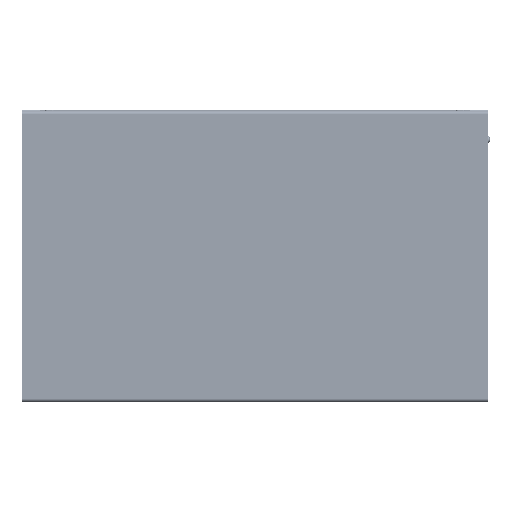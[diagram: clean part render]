
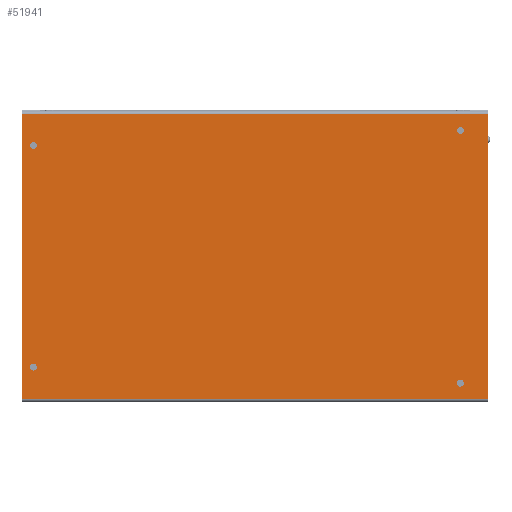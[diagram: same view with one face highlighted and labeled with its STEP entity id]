
A CAD part, front view. The second image highlights one B-rep face of the part: STEP entity #51941.
In plain terms, the highlighted planar face has unit normal (0, -1, 0).
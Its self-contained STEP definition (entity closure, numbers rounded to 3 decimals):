
#209 = DIRECTION ( 'NONE',  ( 0., 1., 0. ) ) ;
#2905 = CARTESIAN_POINT ( 'NONE',  ( -48.3, -20., 98.1 ) ) ;
#7911 = CIRCLE ( 'NONE', #221972, 1.5 ) ;
#9068 = ORIENTED_EDGE ( 'NONE', *, *, #24375, .T. ) ;
#9507 = VERTEX_POINT ( 'NONE', #85983 ) ;
#10855 = DIRECTION ( 'NONE',  ( 1., 0., 0. ) ) ;
#11573 = ORIENTED_EDGE ( 'NONE', *, *, #73715, .F. ) ;
#11654 = ORIENTED_EDGE ( 'NONE', *, *, #111491, .T. ) ;
#12033 = EDGE_CURVE ( 'NONE', #76956, #180942, #169289, .T. ) ;
#13409 = FACE_OUTER_BOUND ( 'NONE', #170630, .T. ) ;
#17635 = VERTEX_POINT ( 'NONE', #71292 ) ;
#22393 = CARTESIAN_POINT ( 'NONE',  ( -48.3, -20., 95.1 ) ) ;
#23757 = DIRECTION ( 'NONE',  ( -1., 0., 0. ) ) ;
#24375 = EDGE_CURVE ( 'NONE', #173566, #136898, #200667, .T. ) ;
#24495 = DIRECTION ( 'NONE',  ( -1., 0., 0. ) ) ;
#31443 = FACE_BOUND ( 'NONE', #55616, .T. ) ;
#31860 = VERTEX_POINT ( 'NONE', #22393 ) ;
#33099 = CIRCLE ( 'NONE', #136188, 1.5 ) ;
#34011 = FACE_BOUND ( 'NONE', #169029, .T. ) ;
#35226 = AXIS2_PLACEMENT_3D ( 'NONE', #177877, #79835, #158540 ) ;
#35559 = VECTOR ( 'NONE', #90292, 1000. ) ;
#37020 = VERTEX_POINT ( 'NONE', #199584 ) ;
#39297 = CARTESIAN_POINT ( 'NONE',  ( -55.3, -20., -89.6 ) ) ;
#40762 = LINE ( 'NONE', #212359, #107081 ) ;
#42784 = CARTESIAN_POINT ( 'NONE',  ( 48.3, -20., 95.1 ) ) ;
#48297 = DIRECTION ( 'NONE',  ( 0., 1., 0. ) ) ;
#51749 = ORIENTED_EDGE ( 'NONE', *, *, #238028, .T. ) ;
#51941 = ADVANCED_FACE ( 'NONE', ( #173259, #130695, #34011, #31443, #13409 ), #208074, .F. ) ;
#55616 = EDGE_LOOP ( 'NONE', ( #186977, #140148 ) ) ;
#57889 = CARTESIAN_POINT ( 'NONE',  ( -55.3, -20., -88.1 ) ) ;
#58164 = CIRCLE ( 'NONE', #123983, 1.5 ) ;
#58189 = ORIENTED_EDGE ( 'NONE', *, *, #128739, .T. ) ;
#58587 = ORIENTED_EDGE ( 'NONE', *, *, #59443, .F. ) ;
#59443 = EDGE_CURVE ( 'NONE', #17635, #83624, #40762, .T. ) ;
#62996 = CARTESIAN_POINT ( 'NONE',  ( 62., -20., 101.6 ) ) ;
#65259 = VECTOR ( 'NONE', #245943, 1000. ) ;
#69645 = LINE ( 'NONE', #128992, #35559 ) ;
#71292 = CARTESIAN_POINT ( 'NONE',  ( -62., -20., 101.6 ) ) ;
#73715 = EDGE_CURVE ( 'NONE', #83624, #9507, #69645, .T. ) ;
#75668 = VERTEX_POINT ( 'NONE', #115722 ) ;
#76591 = AXIS2_PLACEMENT_3D ( 'NONE', #220566, #209, #184395 ) ;
#76956 = VERTEX_POINT ( 'NONE', #233140 ) ;
#79835 = DIRECTION ( 'NONE',  ( 0., 1., 0. ) ) ;
#80885 = CARTESIAN_POINT ( 'NONE',  ( 48.3, -20., 96.6 ) ) ;
#82405 = CARTESIAN_POINT ( 'NONE',  ( -55.3, -20., -91.1 ) ) ;
#82582 = AXIS2_PLACEMENT_3D ( 'NONE', #90744, #91996, #10855 ) ;
#83624 = VERTEX_POINT ( 'NONE', #62996 ) ;
#83700 = EDGE_LOOP ( 'NONE', ( #9068, #58189 ) ) ;
#84417 = CARTESIAN_POINT ( 'NONE',  ( -62., -20., -101.6 ) ) ;
#85983 = CARTESIAN_POINT ( 'NONE',  ( 62., -20., -101.6 ) ) ;
#88229 = CARTESIAN_POINT ( 'NONE',  ( 54.9, -20., -89.6 ) ) ;
#90292 = DIRECTION ( 'NONE',  ( 0., 0., -1. ) ) ;
#90744 = CARTESIAN_POINT ( 'NONE',  ( -62., -20., 101.6 ) ) ;
#91996 = DIRECTION ( 'NONE',  ( 0., 1., 0. ) ) ;
#92456 = ORIENTED_EDGE ( 'NONE', *, *, #12033, .T. ) ;
#97303 = VECTOR ( 'NONE', #108439, 1000. ) ;
#98584 = DIRECTION ( 'NONE',  ( 0., 1., 0. ) ) ;
#99011 = DIRECTION ( 'NONE',  ( -1., 0., 0. ) ) ;
#105792 = DIRECTION ( 'NONE',  ( -1., 0., 0. ) ) ;
#107081 = VECTOR ( 'NONE', #136270, 1000. ) ;
#107506 = EDGE_CURVE ( 'NONE', #185795, #31860, #252806, .T. ) ;
#108439 = DIRECTION ( 'NONE',  ( 1., 0., 0. ) ) ;
#111491 = EDGE_CURVE ( 'NONE', #205370, #9507, #246458, .T. ) ;
#115722 = CARTESIAN_POINT ( 'NONE',  ( 54.9, -20., -91.1 ) ) ;
#119107 = ORIENTED_EDGE ( 'NONE', *, *, #233775, .T. ) ;
#123983 = AXIS2_PLACEMENT_3D ( 'NONE', #201120, #220495, #24495 ) ;
#125118 = DIRECTION ( 'NONE',  ( 0., 1., 0. ) ) ;
#125204 = CARTESIAN_POINT ( 'NONE',  ( -62., -20., -101.6 ) ) ;
#126914 = DIRECTION ( 'NONE',  ( -1., 0., 0. ) ) ;
#128549 = CARTESIAN_POINT ( 'NONE',  ( -62., -20., 101.6 ) ) ;
#128739 = EDGE_CURVE ( 'NONE', #136898, #173566, #129994, .T. ) ;
#128992 = CARTESIAN_POINT ( 'NONE',  ( 62., -20., 101.6 ) ) ;
#129994 = CIRCLE ( 'NONE', #76591, 1.5 ) ;
#130695 = FACE_BOUND ( 'NONE', #83700, .T. ) ;
#136188 = AXIS2_PLACEMENT_3D ( 'NONE', #88229, #48297, #126914 ) ;
#136270 = DIRECTION ( 'NONE',  ( 1., 0., 0. ) ) ;
#136898 = VERTEX_POINT ( 'NONE', #82405 ) ;
#140148 = ORIENTED_EDGE ( 'NONE', *, *, #254811, .T. ) ;
#146394 = CIRCLE ( 'NONE', #35226, 1.5 ) ;
#158540 = DIRECTION ( 'NONE',  ( -1., 0., 0. ) ) ;
#159592 = DIRECTION ( 'NONE',  ( 0., 1., 0. ) ) ;
#160684 = EDGE_CURVE ( 'NONE', #180942, #76956, #58164, .T. ) ;
#168754 = EDGE_CURVE ( 'NONE', #75668, #37020, #7911, .T. ) ;
#169029 = EDGE_LOOP ( 'NONE', ( #92456, #202466 ) ) ;
#169289 = CIRCLE ( 'NONE', #189888, 1.5 ) ;
#170630 = EDGE_LOOP ( 'NONE', ( #11654, #11573, #58587, #51749 ) ) ;
#173259 = FACE_BOUND ( 'NONE', #224706, .T. ) ;
#173566 = VERTEX_POINT ( 'NONE', #57889 ) ;
#176763 = DIRECTION ( 'NONE',  ( 0., 1., 0. ) ) ;
#177877 = CARTESIAN_POINT ( 'NONE',  ( -48.3, -20., 96.6 ) ) ;
#178041 = CARTESIAN_POINT ( 'NONE',  ( -48.3, -20., 96.6 ) ) ;
#180942 = VERTEX_POINT ( 'NONE', #42784 ) ;
#183463 = ORIENTED_EDGE ( 'NONE', *, *, #168754, .T. ) ;
#184395 = DIRECTION ( 'NONE',  ( -1., 0., 0. ) ) ;
#185341 = LINE ( 'NONE', #128549, #65259 ) ;
#185795 = VERTEX_POINT ( 'NONE', #2905 ) ;
#186977 = ORIENTED_EDGE ( 'NONE', *, *, #107506, .T. ) ;
#189888 = AXIS2_PLACEMENT_3D ( 'NONE', #80885, #159592, #99011 ) ;
#199584 = CARTESIAN_POINT ( 'NONE',  ( 54.9, -20., -88.1 ) ) ;
#200667 = CIRCLE ( 'NONE', #217077, 1.5 ) ;
#201120 = CARTESIAN_POINT ( 'NONE',  ( 48.3, -20., 96.6 ) ) ;
#201146 = DIRECTION ( 'NONE',  ( -1., 0., 0. ) ) ;
#202466 = ORIENTED_EDGE ( 'NONE', *, *, #160684, .T. ) ;
#203805 = CARTESIAN_POINT ( 'NONE',  ( 54.9, -20., -89.6 ) ) ;
#205370 = VERTEX_POINT ( 'NONE', #84417 ) ;
#208074 = PLANE ( 'NONE',  #82582 ) ;
#212359 = CARTESIAN_POINT ( 'NONE',  ( -62., -20., 101.6 ) ) ;
#217077 = AXIS2_PLACEMENT_3D ( 'NONE', #39297, #98584, #23757 ) ;
#220495 = DIRECTION ( 'NONE',  ( 0., 1., 0. ) ) ;
#220566 = CARTESIAN_POINT ( 'NONE',  ( -55.3, -20., -89.6 ) ) ;
#221972 = AXIS2_PLACEMENT_3D ( 'NONE', #203805, #125118, #105792 ) ;
#224706 = EDGE_LOOP ( 'NONE', ( #119107, #183463 ) ) ;
#233140 = CARTESIAN_POINT ( 'NONE',  ( 48.3, -20., 98.1 ) ) ;
#233775 = EDGE_CURVE ( 'NONE', #37020, #75668, #33099, .T. ) ;
#238028 = EDGE_CURVE ( 'NONE', #17635, #205370, #185341, .T. ) ;
#240418 = AXIS2_PLACEMENT_3D ( 'NONE', #178041, #176763, #201146 ) ;
#245943 = DIRECTION ( 'NONE',  ( 0., 0., -1. ) ) ;
#246458 = LINE ( 'NONE', #125204, #97303 ) ;
#252806 = CIRCLE ( 'NONE', #240418, 1.5 ) ;
#254811 = EDGE_CURVE ( 'NONE', #31860, #185795, #146394, .T. ) ;
